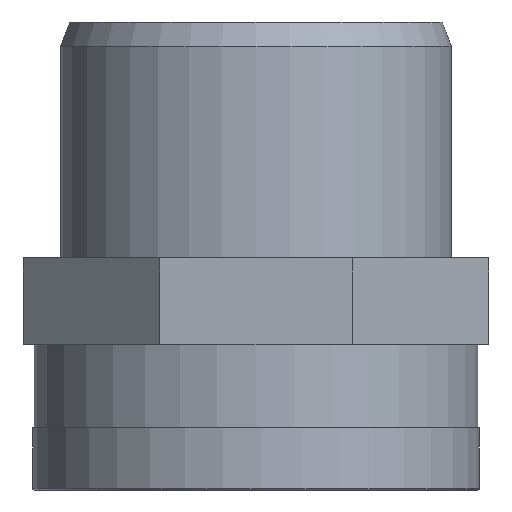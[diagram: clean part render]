
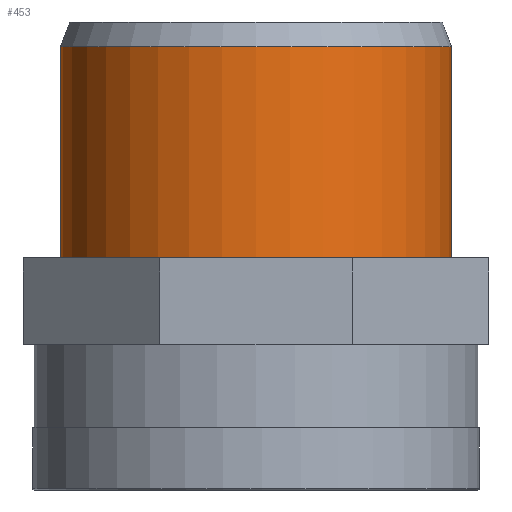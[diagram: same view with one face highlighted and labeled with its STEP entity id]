
A CAD part, front view. The second image highlights one B-rep face of the part: STEP entity #453.
In plain terms, the highlighted cylindrical face has radius 31.5 mm (diameter 63 mm), a full revolution.
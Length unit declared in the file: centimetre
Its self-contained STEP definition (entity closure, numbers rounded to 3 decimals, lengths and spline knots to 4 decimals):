
#105=FACE_BOUND('',#159,.T.);
#126=FACE_OUTER_BOUND('',#158,.T.);
#158=EDGE_LOOP('',(#337));
#159=EDGE_LOOP('',(#338));
#196=CIRCLE('',#485,3.15);
#198=CIRCLE('',#488,3.15);
#220=VERTEX_POINT('',#5160);
#222=VERTEX_POINT('',#5165);
#266=EDGE_CURVE('',#220,#220,#196,.T.);
#268=EDGE_CURVE('',#222,#222,#198,.T.);
#337=ORIENTED_EDGE('',*,*,#268,.T.);
#338=ORIENTED_EDGE('',*,*,#266,.F.);
#409=CYLINDRICAL_SURFACE('',#487,3.15);
#453=ADVANCED_FACE('',(#126,#105),#409,.T.);
#485=AXIS2_PLACEMENT_3D('',#5161,#540,#541);
#487=AXIS2_PLACEMENT_3D('',#5164,#544,#545);
#488=AXIS2_PLACEMENT_3D('',#5166,#546,#547);
#540=DIRECTION('center_axis',(0.,0.,1.));
#541=DIRECTION('ref_axis',(-1.,0.,0.));
#544=DIRECTION('center_axis',(0.,0.,1.));
#545=DIRECTION('ref_axis',(1.,0.,0.));
#546=DIRECTION('center_axis',(0.,0.,1.));
#547=DIRECTION('ref_axis',(1.,0.,0.));
#5160=CARTESIAN_POINT('',(2.748,-0.003,5.1233));
#5161=CARTESIAN_POINT('Origin',(-0.402,-0.003,
5.1233));
#5164=CARTESIAN_POINT('Origin',(-0.402,-0.003,
3.6233));
#5165=CARTESIAN_POINT('',(2.748,-0.003,1.7233));
#5166=CARTESIAN_POINT('Origin',(-0.402,-0.003,
1.7233));
